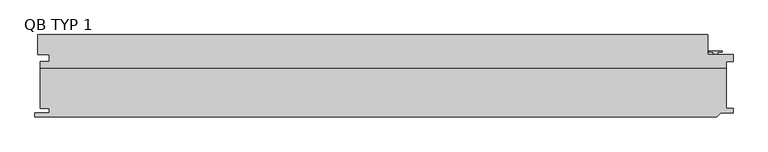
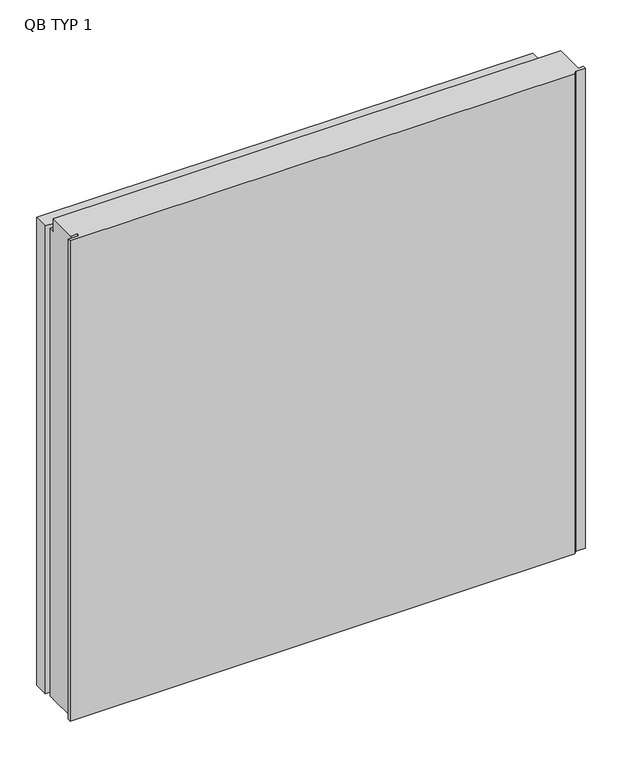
"""IFC4 building model written with IfcOpenShell, lengths in millimetres: plate geometry, TR_C_V_QBISS_Panel : QB TYP 1."""

from ifc_helpers import new_model, si_unit, frame, origin, place, context, project, spatial, polyline, outline, extrude, faceted_brep, source, transform, mapped, element, save


def qb_typ_1_c404f8b2(model_context):
    return source(origin(), model_context, "Body", "SolidModel", [
        faceted_brep([(-500.0, -108.0, 1012.4), (-487.0, -108.0, 1012.4), (-487.0, -114.0, 1012.4), (-508.0, -114.0, 1012.4), (-508.0, -120.0, 1012.4), (486.0, -120.0, 1012.4), (492.0, -114.0, 1012.4), (510.0, -114.0, 1012.4), (510.0, -108.0, 1012.4), (500.0, -108.0, 1012.4), (500.0, -49.0, 1012.4), (-500.0, -49.0, 1012.4), (500.0, -108.0, 12.5), (510.0, -108.0, 12.5), (510.0, -114.0, 12.5), (492.0, -114.0, 12.5), (486.0, -120.0, 12.5), (-508.0, -120.0, 12.5), (-508.0, -114.0, 12.5), (-487.0, -114.0, 12.5), (-487.0, -108.0, 12.5), (-500.0, -108.0, 12.5), (-500.0, -49.0, 12.5), (500.0, -49.0, 12.5), (-500.0, -49.0, 12.7), (500.0, -49.0, 12.7), (-500.0, -39.0, 12.7), (-487.0, -39.0, 12.7), (-487.0, -29.0, 12.7), (-504.0, -29.0, 12.7), (-504.0, 0.0, 12.7), (473.0, 0.0, 12.7), (473.0, -29.0, 12.7), (510.0, -29.0, 12.7), (510.0, -39.0, 12.7), (500.0, -39.0, 12.7), (500.0, -39.0, 987.3), (500.0, -49.0, 987.3), (510.0, -39.0, 987.3), (510.0, -29.0, 987.3), (473.0, -29.0, 987.3), (473.0, 0.0, 987.3), (-504.0, 0.0, 987.3), (-504.0, -29.0, 987.3), (-487.0, -29.0, 987.3), (-487.0, -39.0, 987.3), (-500.0, -39.0, 987.3), (-500.0, -49.0, 987.3)], [[[0, 1, 2, 3, 4, 5, 6, 7, 8, 9, 10, 11]], [[12, 13, 14, 15, 16, 17, 18, 19, 20, 21, 22, 23]], [[24, 25, 23, 22]], [[25, 24, 26, 27, 28, 29, 30, 31, 32, 33, 34, 35]], [[1, 0, 21, 20]], [[2, 1, 20, 19]], [[3, 2, 19, 18]], [[4, 3, 18, 17]], [[5, 4, 17, 16]], [[6, 5, 16, 15]], [[7, 6, 15, 14]], [[8, 7, 14, 13]], [[9, 8, 13, 12]], [[9, 12, 23, 25, 35, 36, 37, 10]], [[35, 34, 38, 36]], [[34, 33, 39, 38]], [[33, 32, 40, 39]], [[32, 31, 41, 40]], [[31, 30, 42, 41]], [[30, 29, 43, 42]], [[29, 28, 44, 43]], [[28, 27, 45, 44]], [[27, 26, 46, 45]], [[21, 0, 11, 47, 46, 26, 24, 22]], [[37, 47, 11, 10]], [[47, 37, 36, 38, 39, 40, 41, 42, 43, 44, 45, 46]]]),
        extrude(outline(polyline([(494.5, -24.0), (494.5, -25.4998317), (487.7023593, -25.4998317), (487.7023593, -27.9998293), (488.5023593, -27.9998293), (488.5023593, -28.7998428), (480.5023028, -28.7998428), (480.5023028, -27.9998293), (481.3023028, -27.9998293), (481.3023028, -25.4998317), (474.5, -25.4998317), (474.5, -24.0), (494.5, -24.0)])), frame((0.0, 0.0, 12.5), z_axis=(0.0, 0.0, 1.0), x_axis=(1.0, 0.0, 0.0)), (0.0, 0.0, 1.0), 975.0),
        extrude(outline(polyline([(-48.2, -11.7), (-44.0, -11.7), (-44.0, -12.5), (-49.0, -12.5), (-49.0, 12.7), (-48.2, 12.7), (-48.2, -11.7)])), frame((-446.0, 0.0, 0.0), z_axis=(1.0, 0.0, 0.0), x_axis=(0.0, 1.0, 0.0)), (0.0, 0.0, 1.0), 862.0),
    ])


if __name__ == "__main__":
    model = new_model("IFC4")
    model_context = context("Model", 3, world=origin())
    ifc_project = project(units=[si_unit("LENGTHUNIT", "METRE", prefix="MILLI")], contexts=[model_context])
    site = spatial("IfcSite", under=ifc_project)
    building = spatial("IfcBuilding", under=site)
    placement = place(None, origin())
    qb_typ_1_shape = qb_typ_1_c404f8b2(model_context)
    element("IfcPlate", 1, ObjectType="TR_C_V_QBISS_Panel : QB TYP 1", at=placement, inside=building, context=model_context, shape_type="MappedRepresentation", body=[
        mapped(qb_typ_1_shape, transform((0.0, 0.0, 0.0), x_axis=(1.0, 0.0, 0.0), y_axis=(0.0, 1.0, 0.0), z_axis=(0.0, 0.0, 1.0))),
    ])
    save(model, "model.ifc")
